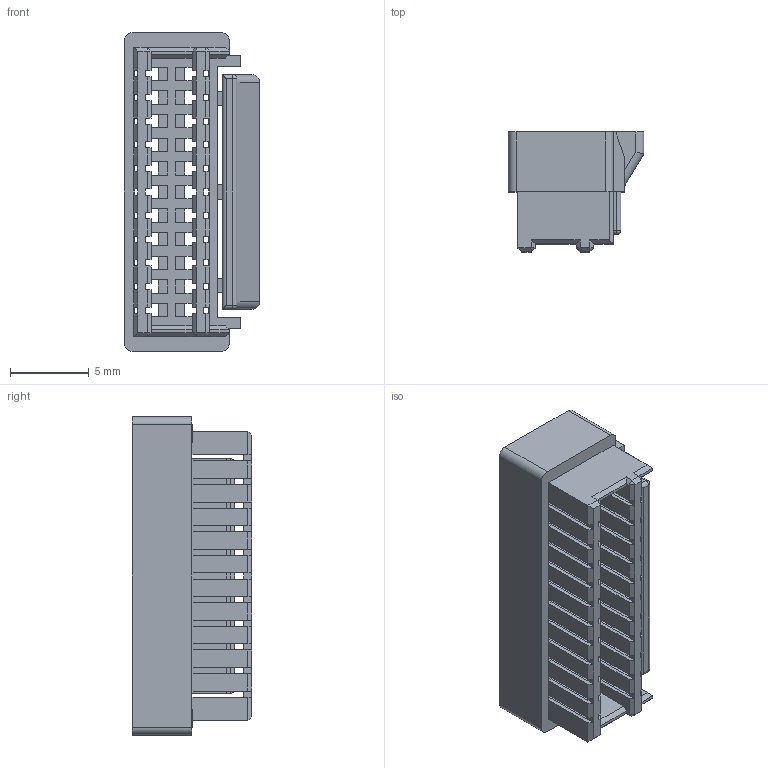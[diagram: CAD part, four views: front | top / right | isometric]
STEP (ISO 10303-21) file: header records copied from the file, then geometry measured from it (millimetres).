
FILE_DESCRIPTION (( 'STEP AP203' ), '1' );
FILE_NAME ('HC-ZHD-2x11Y-05（1.50 双排 孔座-HCTL）.STEP', '2024-08-26T01:33:43', ( '' ), ( '' ), 'SwSTEP 2.0', 'SolidWorks 2022', '' );
FILE_SCHEMA (( 'CONFIG_CONTROL_DESIGN' ));
Length unit declared in the file: millimetre
Products named in the file (1): HC-ZHD-2x11Y-05（1.50 双排 孔座-HCTL）
Bounding box: 8.6 x 7.6 x 20.2 mm (x, y, z)
Volume: 479.9 mm3; surface area: 1915.5 mm2
Topology: 1 solids, 1 shells, 890 faces, 2628 edges, 1686 vertices
Faces by surface type: plane 874, cylinder 14, sphere 2
Entity records: 29079 total; most frequent: ORIENTED_EDGE 5252, CARTESIAN_POINT 5249, DIRECTION 4416, EDGE_CURVE 2626, VECTOR 2602, LINE 2602, VERTEX_POINT 1686, EDGE_LOOP 930
